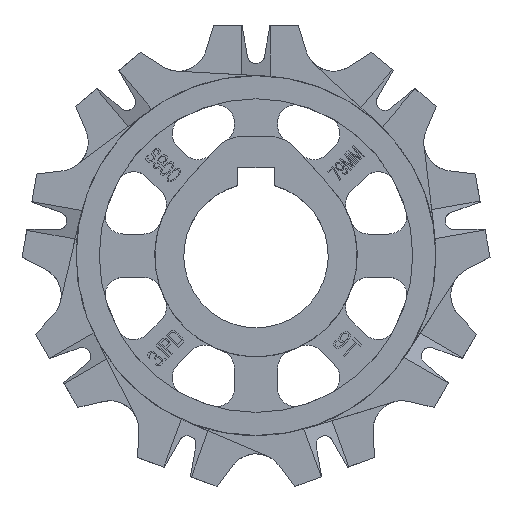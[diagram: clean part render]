
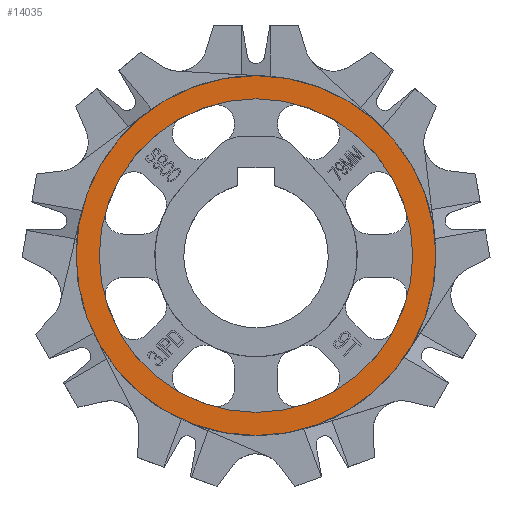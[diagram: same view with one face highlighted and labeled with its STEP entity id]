
A CAD part, top view. The second image highlights one B-rep face of the part: STEP entity #14035.
In plain terms, the highlighted planar face has unit normal (0, 0, 1).
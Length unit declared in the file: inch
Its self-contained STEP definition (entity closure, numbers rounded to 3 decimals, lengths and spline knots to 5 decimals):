
#1=CARTESIAN_POINT('',(0.,0.,0.438));
#2=DIRECTION('',(0.,0.,1.));
#3=DIRECTION('',(1.,0.,0.));
#4=AXIS2_PLACEMENT_3D('',#1,#2,#3);
#6=CARTESIAN_POINT('',(0.,0.,0.438));
#7=DIRECTION('',(0.,0.,1.));
#8=DIRECTION('',(-1.,0.,0.));
#9=AXIS2_PLACEMENT_3D('',#6,#7,#8);
#11=CARTESIAN_POINT('',(0.,0.,0.438));
#12=DIRECTION('',(0.,0.,1.));
#13=DIRECTION('',(0.,1.,0.));
#14=AXIS2_PLACEMENT_3D('',#11,#12,#13);
#16=CARTESIAN_POINT('',(0.,0.,0.438));
#17=DIRECTION('',(0.,0.,1.));
#18=DIRECTION('',(0.,-1.,0.));
#19=AXIS2_PLACEMENT_3D('',#16,#17,#18);
#10755=CARTESIAN_POINT('',(1.245,0.,0.438));
#10756=CARTESIAN_POINT('',(-1.245,0.,0.438));
#10757=VERTEX_POINT('',#10755);
#10758=VERTEX_POINT('',#10756);
#10812=CARTESIAN_POINT('',(0.,1.085,0.438));
#10813=CARTESIAN_POINT('',(0.,-1.085,0.438));
#10814=VERTEX_POINT('',#10812);
#10815=VERTEX_POINT('',#10813);
#14018=CARTESIAN_POINT('',(0.,0.,0.438));
#14019=DIRECTION('',(0.,0.,1.));
#14020=DIRECTION('',(1.,0.,0.));
#14021=AXIS2_PLACEMENT_3D('',#14018,#14019,#14020);
#14022=PLANE('',#14021);
#14024=ORIENTED_EDGE('',*,*,#14023,.F.);
#14026=ORIENTED_EDGE('',*,*,#14025,.F.);
#14027=EDGE_LOOP('',(#14024,#14026));
#14028=FACE_OUTER_BOUND('',#14027,.F.);
#14030=ORIENTED_EDGE('',*,*,#14029,.T.);
#14032=ORIENTED_EDGE('',*,*,#14031,.T.);
#14033=EDGE_LOOP('',(#14030,#14032));
#14034=FACE_BOUND('',#14033,.F.);
#14035=ADVANCED_FACE('',(#14028,#14034),#14022,.T.);
#5=CIRCLE('',#4,1.245);
#10=CIRCLE('',#9,1.245);
#15=CIRCLE('',#14,1.085);
#20=CIRCLE('',#19,1.085);
#14023=EDGE_CURVE('',#10757,#10758,#5,.T.);
#14025=EDGE_CURVE('',#10758,#10757,#10,.T.);
#14029=EDGE_CURVE('',#10814,#10815,#15,.T.);
#14031=EDGE_CURVE('',#10815,#10814,#20,.T.);
